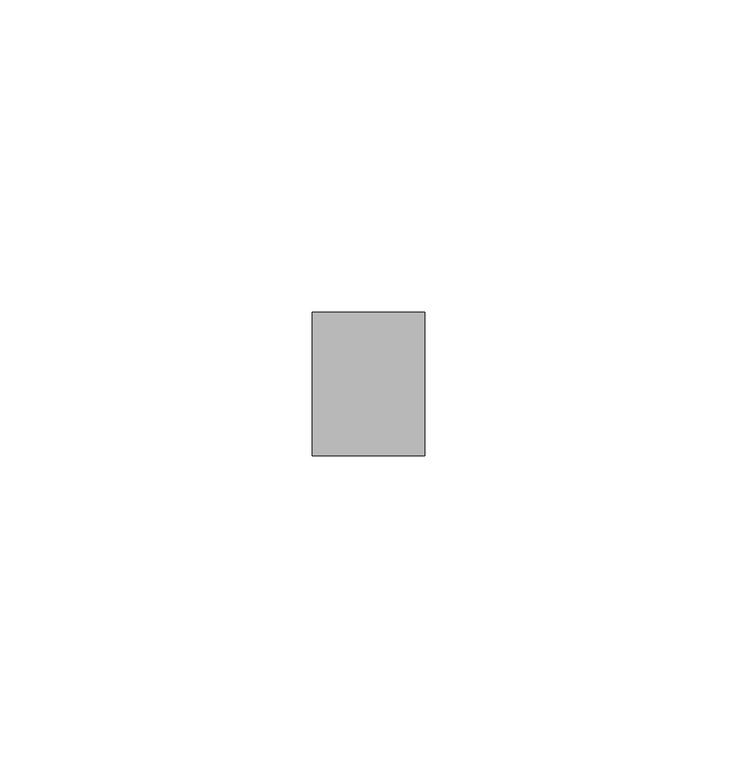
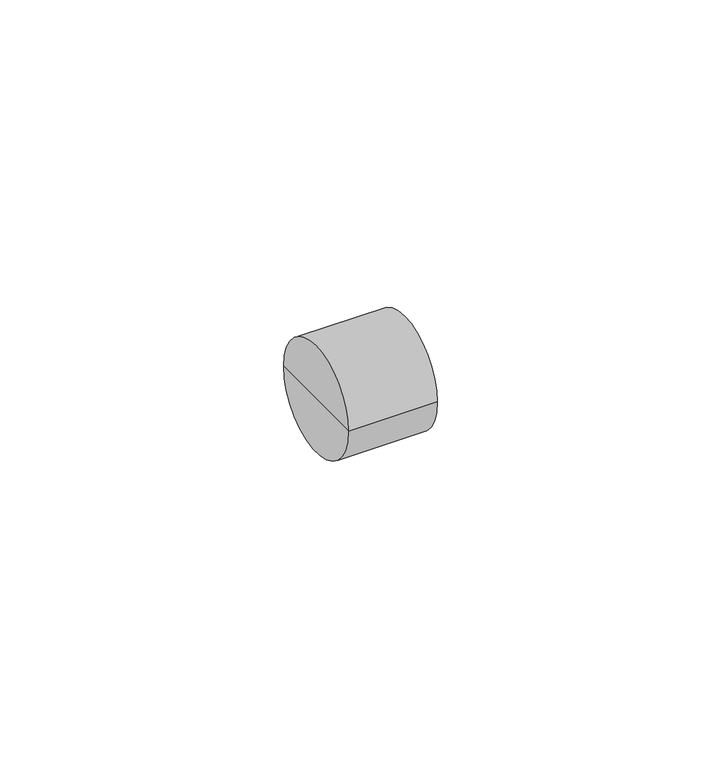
"""IFC4 building model written with IfcOpenShell, lengths in millimetres: pipe fitting geometry, KAN-therm Push mosiężny pierścień nasuwany : KAN-therm Push mosiężny pierścień nasuwany."""

from ifc_helpers import new_model, si_unit, frame, origin, place, context, project, spatial, circle_curve, source, transform, mapped, element, save
from ifc_brep_helpers import plane_surface, cylinder_surface, advanced_brep


def pipe_fitting_5e96aa70(model_context):
    return source(origin(), model_context, "Body", "AdvancedBrep", [
        advanced_brep(
        [(18.0, -11.5, 0.0), (18.0, 11.5, 0.0), (18.0, 0.0, 0.0), (0.0, -11.5, 0.0), (0.0, 11.5, 0.0), (0.0, 0.0, 0.0)],
        [
            (0, 1, circle_curve(frame((18.0, 0.0, 0.0), z_axis=(1.0, 0.0, 0.0), x_axis=(0.0, 1.0, 0.0)), 11.5)),
            (1, 2),
            (2, 0),
            (1, 0, circle_curve(frame((18.0, 0.0, 0.0), z_axis=(1.0, 0.0, 0.0), x_axis=(0.0, 1.0, 0.0)), 11.5)),
            (3, 4, circle_curve(frame((0.0, 0.0, 0.0), z_axis=(1.0, 0.0, 0.0), x_axis=(0.0, 1.0, 0.0)), 11.5)),
            (4, 1),
            (0, 3),
            (4, 3, circle_curve(frame((0.0, 0.0, 0.0), z_axis=(1.0, 0.0, 0.0), x_axis=(0.0, 1.0, 0.0)), 11.5)),
            (5, 4),
            (3, 5),
        ],
        [
            plane_surface(frame((18.0, 0.0, 0.0), z_axis=(1.0, 0.0, 0.0), x_axis=(0.0, 1.0, 0.0))),
            cylinder_surface(frame((1995.0, 0.0, 0.0), z_axis=(-1.0, 0.0, 0.0), x_axis=(0.0, 1.0, 0.0)), 11.5),
            plane_surface(frame((0.0, 0.0, 0.0), z_axis=(-1.0, 0.0, 0.0), x_axis=(0.0, 1.0, 0.0))),
        ],
        [
            (0, [[1, 2, 3]]),
            (0, [[4, -3, -2]]),
            (1, [[5, 6, -1, 7]]),
            (1, [[8, -7, -4, -6]]),
            (2, [[9, -5, 10]]),
            (2, [[-10, -8, -9]]),
        ],
    ),
    ])


if __name__ == "__main__":
    model = new_model("IFC4")
    model_context = context("Model", 3, world=origin())
    ifc_project = project(units=[si_unit("LENGTHUNIT", "METRE", prefix="MILLI")], contexts=[model_context])
    site = spatial("IfcSite", under=ifc_project)
    building = spatial("IfcBuilding", under=site)
    placement = place(None, origin())
    pipe_fitting_shape = pipe_fitting_5e96aa70(model_context)
    element("IfcPipeFitting", 1, ObjectType="KAN-therm Push mosiężny pierścień nasuwany : KAN-therm Push mosiężny pierścień nasuwany", at=placement, inside=building, context=model_context, shape_type="MappedRepresentation", body=[
        mapped(pipe_fitting_shape, transform((0.0, 0.0, 0.0), x_axis=(1.0, 0.0, 0.0), y_axis=(0.0, 1.0, 0.0), z_axis=(0.0, 0.0, 1.0))),
    ])
    save(model, "model.ifc")
